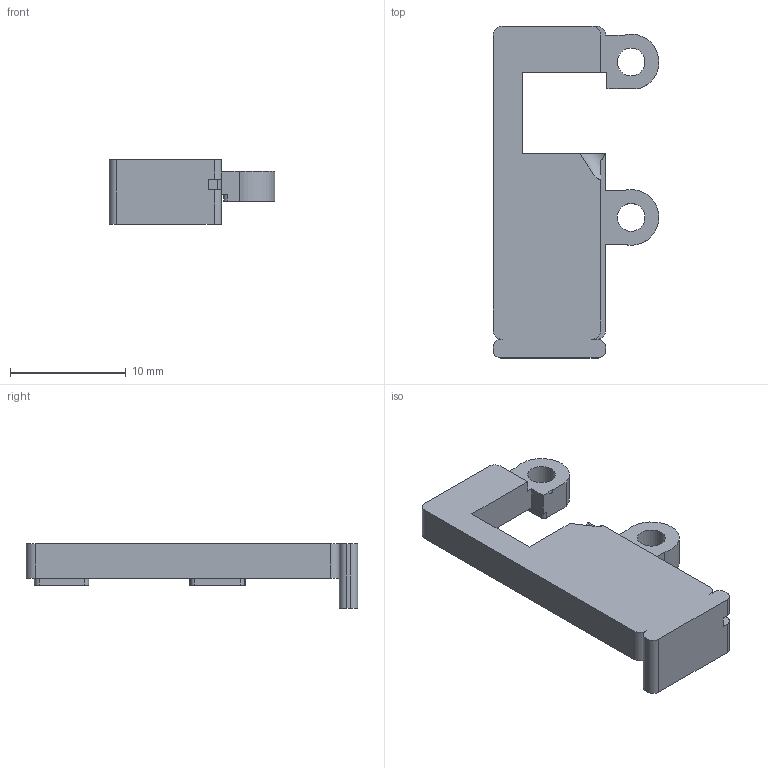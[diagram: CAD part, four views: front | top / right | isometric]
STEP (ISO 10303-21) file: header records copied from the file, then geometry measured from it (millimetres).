
FILE_DESCRIPTION(/* description */ (''),/* implementation_level */ '2;1');
FILE_NAME(/* name */ 'P20.step',/* time_stamp */ '2026-09-15T15:14:54-07:00',/* author */ (''),/* organization */ (''),/* preprocessor_version */ 'ST-DEVELOPER v20.1',/* originating_system */ 'Autodesk Translation Framework v15.8.0.0',/* authorisation */ '');
FILE_SCHEMA (('AUTOMOTIVE_DESIGN { 1 0 10303 214 3 1 1 }'));
Length unit declared in the file: millimetre
Products named in the file (1): 2026-09-15-15-14-54-416
Bounding box: 14.3 x 28.62 x 5.6 mm (x, y, z)
Volume: 781.6 mm3; surface area: 935 mm2
Topology: 1 solids, 1 shells, 56 faces, 162 edges, 108 vertices
Faces by surface type: plane 33, cylinder 21, torus 2
Full cylindrical faces by diameter (mm): 2.4 x2
Entity records: 2117 total; most frequent: CARTESIAN_POINT 562, ORIENTED_EDGE 324, DIRECTION 316, EDGE_CURVE 162, LINE 112, VECTOR 112, VERTEX_POINT 108, AXIS2_PLACEMENT_3D 102
